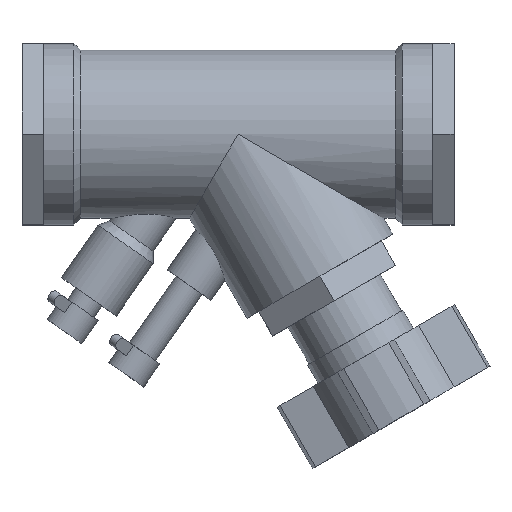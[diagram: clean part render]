
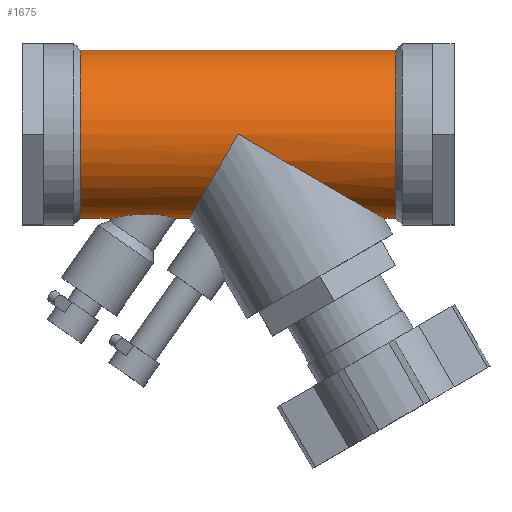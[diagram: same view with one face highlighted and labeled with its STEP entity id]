
A CAD part, top view. The second image highlights one B-rep face of the part: STEP entity #1675.
In plain terms, the highlighted cylindrical face has radius 30.163 mm (diameter 60.325 mm), a full revolution.
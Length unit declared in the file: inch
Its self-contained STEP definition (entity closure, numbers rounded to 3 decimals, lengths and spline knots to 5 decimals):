
#45=ELLIPSE('',#1852,1.37121,1.1875);
#46=ELLIPSE('',#1853,2.375,1.1875);
#47=ELLIPSE('',#1855,2.375,1.1875);
#48=ELLIPSE('',#1856,1.37121,1.1875);
#51=B_SPLINE_CURVE_WITH_KNOTS('',3,(#2691,#2692,#2693,#2694,#2695,#2696,
#2697,#2698,#2699,#2700),.UNSPECIFIED.,.F.,.F.,(4,2,2,2,4),(0.,0.40318,
0.80636,1.17068,1.535),.UNSPECIFIED.);
#52=B_SPLINE_CURVE_WITH_KNOTS('',3,(#2702,#2703,#2704,#2705,#2706,#2707,
#2708,#2709,#2710,#2711,#2712,#2713),.UNSPECIFIED.,.F.,.F.,(4,2,2,2,2,4),
(4.75457,4.93612,5.11767,5.48077,5.95993,
6.43909),.UNSPECIFIED.);
#53=B_SPLINE_CURVE_WITH_KNOTS('',3,(#2714,#2715,#2716,#2717,#2718,#2719,
#2720,#2721,#2722,#2723,#2724,#2725,#2726,#2727,#2728,#2729,#2730,#2731,
#2732,#2733),.UNSPECIFIED.,.F.,.F.,(4,2,2,2,2,2,2,2,2,4),(1.535,
1.88937,2.24375,2.6569,3.07005,3.54921,
4.02837,4.39147,4.57302,4.75457),
 .UNSPECIFIED.);
#187=LINE('',#2895,#322);
#188=LINE('',#2896,#323);
#189=LINE('',#2897,#324);
#322=VECTOR('',#2330,1.1875);
#323=VECTOR('',#2331,1.1875);
#324=VECTOR('',#2332,1.1875);
#349=CYLINDRICAL_SURFACE('',#1858,1.1875);
#446=FACE_OUTER_BOUND('',#543,.T.);
#543=EDGE_LOOP('',(#1378,#1379,#1380,#1381,#1382,#1383,#1384,#1385,#1386,
#1387,#1388,#1389,#1390,#1391,#1392,#1393,#1394));
#619=CIRCLE('',#1843,1.1875);
#620=CIRCLE('',#1844,1.1875);
#623=CIRCLE('',#1848,1.1875);
#624=CIRCLE('',#1849,1.1875);
#722=VERTEX_POINT('',#2689);
#723=VERTEX_POINT('',#2690);
#724=VERTEX_POINT('',#2701);
#763=VERTEX_POINT('',#2864);
#764=VERTEX_POINT('',#2865);
#767=VERTEX_POINT('',#2874);
#768=VERTEX_POINT('',#2876);
#769=VERTEX_POINT('',#2882);
#770=VERTEX_POINT('',#2883);
#771=VERTEX_POINT('',#2885);
#773=VERTEX_POINT('',#2890);
#907=EDGE_CURVE('',#722,#723,#51,.T.);
#908=EDGE_CURVE('',#724,#722,#52,.T.);
#909=EDGE_CURVE('',#723,#724,#53,.T.);
#975=EDGE_CURVE('',#763,#764,#619,.T.);
#976=EDGE_CURVE('',#764,#763,#620,.T.);
#981=EDGE_CURVE('',#768,#767,#623,.T.);
#982=EDGE_CURVE('',#767,#768,#624,.T.);
#984=EDGE_CURVE('',#769,#770,#45,.T.);
#985=EDGE_CURVE('',#771,#769,#46,.T.);
#988=EDGE_CURVE('',#773,#771,#47,.T.);
#989=EDGE_CURVE('',#770,#773,#48,.T.);
#990=EDGE_CURVE('',#767,#771,#187,.T.);
#991=EDGE_CURVE('',#770,#723,#188,.T.);
#992=EDGE_CURVE('',#724,#764,#189,.T.);
#1378=ORIENTED_EDGE('',*,*,#981,.T.);
#1379=ORIENTED_EDGE('',*,*,#990,.T.);
#1380=ORIENTED_EDGE('',*,*,#985,.T.);
#1381=ORIENTED_EDGE('',*,*,#984,.T.);
#1382=ORIENTED_EDGE('',*,*,#991,.T.);
#1383=ORIENTED_EDGE('',*,*,#909,.T.);
#1384=ORIENTED_EDGE('',*,*,#992,.T.);
#1385=ORIENTED_EDGE('',*,*,#976,.T.);
#1386=ORIENTED_EDGE('',*,*,#975,.T.);
#1387=ORIENTED_EDGE('',*,*,#992,.F.);
#1388=ORIENTED_EDGE('',*,*,#908,.T.);
#1389=ORIENTED_EDGE('',*,*,#907,.T.);
#1390=ORIENTED_EDGE('',*,*,#991,.F.);
#1391=ORIENTED_EDGE('',*,*,#989,.T.);
#1392=ORIENTED_EDGE('',*,*,#988,.T.);
#1393=ORIENTED_EDGE('',*,*,#990,.F.);
#1394=ORIENTED_EDGE('',*,*,#982,.T.);
#1675=ADVANCED_FACE('',(#446),#349,.T.);
#1843=AXIS2_PLACEMENT_3D('',#2866,#2294,#2295);
#1844=AXIS2_PLACEMENT_3D('',#2867,#2296,#2297);
#1848=AXIS2_PLACEMENT_3D('',#2877,#2306,#2307);
#1849=AXIS2_PLACEMENT_3D('',#2878,#2308,#2309);
#1852=AXIS2_PLACEMENT_3D('',#2884,#2315,#2316);
#1853=AXIS2_PLACEMENT_3D('',#2886,#2317,#2318);
#1855=AXIS2_PLACEMENT_3D('',#2891,#2322,#2323);
#1856=AXIS2_PLACEMENT_3D('',#2892,#2324,#2325);
#1858=AXIS2_PLACEMENT_3D('',#2894,#2328,#2329);
#2294=DIRECTION('center_axis',(1.,0.,0.));
#2295=DIRECTION('ref_axis',(0.,1.,0.));
#2296=DIRECTION('center_axis',(1.,0.,0.));
#2297=DIRECTION('ref_axis',(0.,1.,0.));
#2306=DIRECTION('center_axis',(-1.,0.,0.));
#2307=DIRECTION('ref_axis',(0.,1.,0.));
#2308=DIRECTION('center_axis',(-1.,0.,0.));
#2309=DIRECTION('ref_axis',(0.,1.,0.));
#2315=DIRECTION('center_axis',(-0.866,0.5,0.));
#2316=DIRECTION('ref_axis',(-0.5,-0.866,0.));
#2317=DIRECTION('center_axis',(0.5,0.866,0.));
#2318=DIRECTION('ref_axis',(-0.866,0.5,0.));
#2322=DIRECTION('center_axis',(0.5,0.866,0.));
#2323=DIRECTION('ref_axis',(-0.866,0.5,0.));
#2324=DIRECTION('center_axis',(-0.866,0.5,0.));
#2325=DIRECTION('ref_axis',(-0.5,-0.866,0.));
#2328=DIRECTION('center_axis',(1.,0.,0.));
#2329=DIRECTION('ref_axis',(0.,1.,0.));
#2330=DIRECTION('',(-1.,0.,0.));
#2331=DIRECTION('',(-1.,0.,0.));
#2332=DIRECTION('',(-1.,0.,0.));
#2689=CARTESIAN_POINT('',(-1.28895,-1.12673,0.375));
#2690=CARTESIAN_POINT('',(-0.87371,-1.1875,0.));
#2691=CARTESIAN_POINT('Ctrl Pts',(-1.28895,-1.12673,0.375));
#2692=CARTESIAN_POINT('Ctrl Pts',(-1.23604,-1.12673,0.375));
#2693=CARTESIAN_POINT('Ctrl Pts',(-1.17888,-1.12952,0.36703));
#2694=CARTESIAN_POINT('Ctrl Pts',(-1.07325,-1.14085,0.33012));
#2695=CARTESIAN_POINT('Ctrl Pts',(-1.02482,-1.1493,0.30103));
#2696=CARTESIAN_POINT('Ctrl Pts',(-0.95243,-1.16494,
0.23276));
#2697=CARTESIAN_POINT('Ctrl Pts',(-0.92267,-1.17295,0.19107));
#2698=CARTESIAN_POINT('Ctrl Pts',(-0.88336,-1.18432,
0.09858));
#2699=CARTESIAN_POINT('Ctrl Pts',(-0.87371,-1.1875,0.04781));
#2700=CARTESIAN_POINT('Ctrl Pts',(-0.87371,-1.1875,0.));
#2701=CARTESIAN_POINT('',(-1.78929,-1.1875,0.));
#2702=CARTESIAN_POINT('Ctrl Pts',(-1.78929,-1.1875,0.));
#2703=CARTESIAN_POINT('Ctrl Pts',(-1.78929,-1.1875,0.02383));
#2704=CARTESIAN_POINT('Ctrl Pts',(-1.78596,-1.18677,0.04792));
#2705=CARTESIAN_POINT('Ctrl Pts',(-1.77285,-1.18394,0.0949));
#2706=CARTESIAN_POINT('Ctrl Pts',(-1.76308,-1.18184,0.11778));
#2707=CARTESIAN_POINT('Ctrl Pts',(-1.72612,-1.1742,0.18247));
#2708=CARTESIAN_POINT('Ctrl Pts',(-1.69096,-1.16728,0.22031));
#2709=CARTESIAN_POINT('Ctrl Pts',(-1.60564,-1.15249,0.289));
#2710=CARTESIAN_POINT('Ctrl Pts',(-1.54605,-1.14352,0.32097));
#2711=CARTESIAN_POINT('Ctrl Pts',(-1.41917,-1.13056,0.36401));
#2712=CARTESIAN_POINT('Ctrl Pts',(-1.35183,-1.12673,0.375));
#2713=CARTESIAN_POINT('Ctrl Pts',(-1.28895,-1.12673,0.375));
#2714=CARTESIAN_POINT('Ctrl Pts',(-0.87371,-1.1875,0.));
#2715=CARTESIAN_POINT('Ctrl Pts',(-0.87371,-1.1875,-0.04651));
#2716=CARTESIAN_POINT('Ctrl Pts',(-0.88285,-1.18449,
-0.09599));
#2717=CARTESIAN_POINT('Ctrl Pts',(-0.92021,-1.17364,
-0.18656));
#2718=CARTESIAN_POINT('Ctrl Pts',(-0.94852,-1.16595,
-0.22762));
#2719=CARTESIAN_POINT('Ctrl Pts',(-1.01944,-1.1503,-0.29741));
#2720=CARTESIAN_POINT('Ctrl Pts',(-1.06855,-1.14151,-0.32792));
#2721=CARTESIAN_POINT('Ctrl Pts',(-1.17621,-1.12967,-0.36662));
#2722=CARTESIAN_POINT('Ctrl Pts',(-1.23473,-1.12673,-0.375));
#2723=CARTESIAN_POINT('Ctrl Pts',(-1.35183,-1.12673,-0.375));
#2724=CARTESIAN_POINT('Ctrl Pts',(-1.41917,-1.13056,-0.36401));
#2725=CARTESIAN_POINT('Ctrl Pts',(-1.54605,-1.14352,-0.32097));
#2726=CARTESIAN_POINT('Ctrl Pts',(-1.60564,-1.15249,-0.289));
#2727=CARTESIAN_POINT('Ctrl Pts',(-1.69096,-1.16728,-0.22031));
#2728=CARTESIAN_POINT('Ctrl Pts',(-1.72612,-1.1742,-0.18247));
#2729=CARTESIAN_POINT('Ctrl Pts',(-1.76308,-1.18184,-0.11778));
#2730=CARTESIAN_POINT('Ctrl Pts',(-1.77285,-1.18394,-0.0949));
#2731=CARTESIAN_POINT('Ctrl Pts',(-1.78596,-1.18677,-0.04792));
#2732=CARTESIAN_POINT('Ctrl Pts',(-1.78929,-1.1875,-0.02383));
#2733=CARTESIAN_POINT('Ctrl Pts',(-1.78929,-1.1875,0.));
#2864=CARTESIAN_POINT('',(-2.225,1.1875,0.));
#2865=CARTESIAN_POINT('',(-2.225,-1.1875,0.));
#2866=CARTESIAN_POINT('Origin',(-2.225,0.,0.));
#2867=CARTESIAN_POINT('Origin',(-2.225,0.,0.));
#2874=CARTESIAN_POINT('',(2.225,-1.1875,0.));
#2876=CARTESIAN_POINT('',(2.225,1.1875,0.));
#2877=CARTESIAN_POINT('Origin',(2.225,0.,0.));
#2878=CARTESIAN_POINT('Origin',(2.225,0.,0.));
#2882=CARTESIAN_POINT('',(0.,0.,-1.1875));
#2883=CARTESIAN_POINT('',(-0.6856,-1.1875,0.));
#2884=CARTESIAN_POINT('Origin',(0.,0.,
0.));
#2885=CARTESIAN_POINT('',(2.05681,-1.1875,0.));
#2886=CARTESIAN_POINT('Origin',(0.,0.,
0.));
#2890=CARTESIAN_POINT('',(0.,0.,1.1875));
#2891=CARTESIAN_POINT('Origin',(0.,0.,
0.));
#2892=CARTESIAN_POINT('Origin',(0.,0.,
0.));
#2894=CARTESIAN_POINT('Origin',(0.,0.,
0.));
#2895=CARTESIAN_POINT('',(0.,-1.1875,0.));
#2896=CARTESIAN_POINT('',(0.,-1.1875,0.));
#2897=CARTESIAN_POINT('',(0.,-1.1875,0.));
